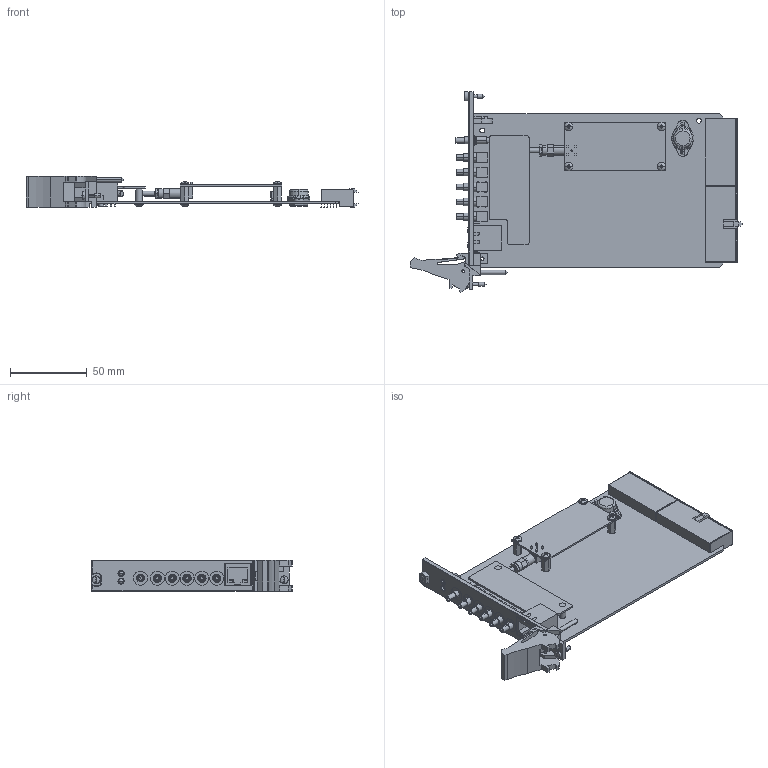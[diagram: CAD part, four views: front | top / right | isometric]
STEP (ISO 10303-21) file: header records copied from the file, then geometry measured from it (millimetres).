
FILE_DESCRIPTION((''),'2;1');
FILE_NAME('CU_PXI-6682','2008-11-18T',('dcrowder'),(''),'PRO/ENGINEER BY PARAMETRIC TECHNOLOGY CORPORATION, 2006080','PRO/ENGINEER BY PARAMETRIC TECHNOLOGY CORPORATION, 2006080','');
FILE_SCHEMA(('CONFIG_CONTROL_DESIGN'));
Products named in the file (1): CU_PXI-6682
Bounding box: 216.08 x 130.62 x 20.19 mm (x, y, z)
Volume: 71410.4 mm3; surface area: 65855.1 mm2
Topology: 2 solids, 6 shells, 1961 faces, 5104 edges, 3073 vertices
Faces by surface type: plane 1164, cylinder 465, bspline 216, torus 38, sphere 28, cone 26, extrusion 24
Entity records: 65918 total; most frequent: CARTESIAN_POINT 19319, ORIENTED_EDGE 9776, DIRECTION 9104, EDGE_CURVE 4888, VERTEX_POINT 3263, VECTOR 3144, LINE 3120, AXIS2_PLACEMENT_3D 2980
